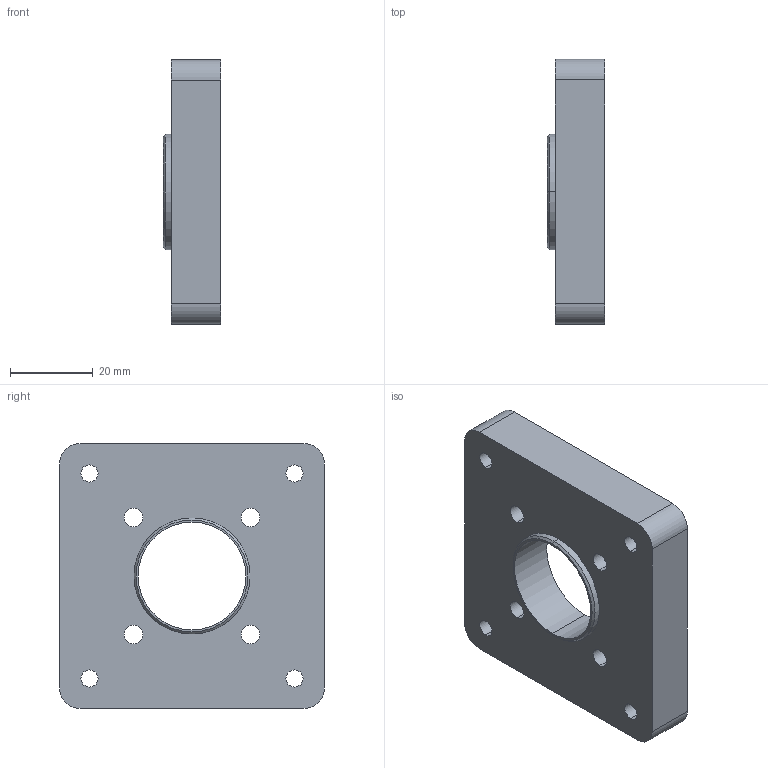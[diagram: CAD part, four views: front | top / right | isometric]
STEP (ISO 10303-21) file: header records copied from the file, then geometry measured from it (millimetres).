
FILE_DESCRIPTION (( 'STEP AP214' ), '1' );
FILE_NAME ('GZ21.03_V1转接法兰.STEP', '2021-02-26T01:16:34', ( '微软中国' ), ( 'Microsoft' ), 'SwSTEP 2.0', 'SolidWorks 2017', '' );
FILE_SCHEMA (( 'AUTOMOTIVE_DESIGN' ));
Length unit declared in the file: millimetre
Products named in the file (1): GZ21.03_V1蛌諉楊擘
Bounding box: 14 x 64 x 64 mm (x, y, z)
Volume: 36455.7 mm3; surface area: 12585.1 mm2
Topology: 1 solids, 1 shells, 50 faces, 122 edges, 80 vertices
Faces by surface type: cylinder 34, plane 12, cone 4
Entity records: 1664 total; most frequent: DIRECTION 296, CARTESIAN_POINT 253, ORIENTED_EDGE 244, AXIS2_PLACEMENT_3D 123, EDGE_CURVE 122, VERTEX_POINT 80, EDGE_LOOP 74, CIRCLE 72
